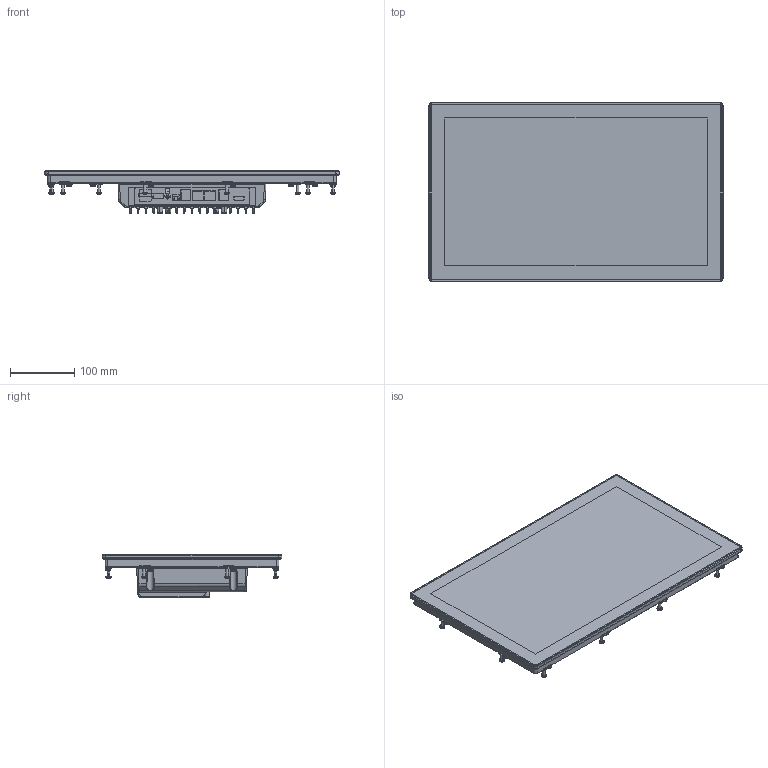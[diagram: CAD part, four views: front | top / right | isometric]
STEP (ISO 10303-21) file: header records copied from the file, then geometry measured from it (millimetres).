
FILE_DESCRIPTION (( 'STEP AP214' ), '1' );
FILE_NAME ('ET1820 (01-235-1820) Export20260312.STEP', '2026-03-12T12:53:19', ( '' ), ( '' ), 'SwSTEP 2.0', 'SolidWorks 2024', '' );
FILE_SCHEMA (( 'AUTOMOTIVE_DESIGN' ));
Length unit declared in the file: millimetre
Products named in the file (1): ET1820 (01-235-1820) Export20260312
Bounding box: 459.37 x 280.45 x 65.8 mm (x, y, z)
Volume: 3568008.7 mm3; surface area: 776512.2 mm2
Topology: 57 solids, 57 shells, 2367 faces, 5484 edges, 3201 vertices
Faces by surface type: cylinder 780, plane 631, bspline 354, torus 285, cone 283, sphere 34
Entity records: 110756 total; most frequent: CARTESIAN_POINT 33720, ORIENTED_EDGE 10784, DIRECTION 10635, EDGE_CURVE 5392, AXIS2_PLACEMENT_3D 4165, VERTEX_POINT 3201, EDGE_LOOP 2529, FACE_OUTER_BOUND 2367
